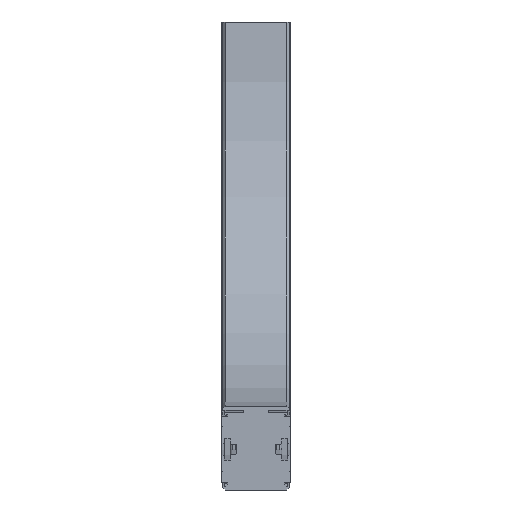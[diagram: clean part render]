
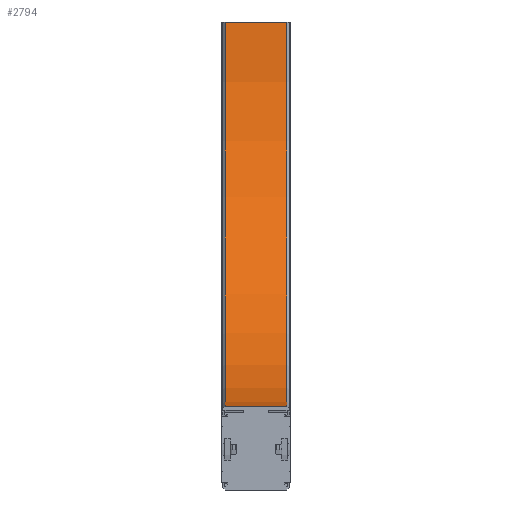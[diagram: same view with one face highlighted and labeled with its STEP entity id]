
A CAD part, front view. The second image highlights one B-rep face of the part: STEP entity #2794.
In plain terms, the highlighted cylindrical face has radius 360 mm (diameter 720 mm), a partial arc.
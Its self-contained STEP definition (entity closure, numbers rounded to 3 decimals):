
#88=CYLINDRICAL_SURFACE('',#3073,360.);
#298=CIRCLE('',#3072,360.);
#299=CIRCLE('',#3074,360.);
#463=FACE_OUTER_BOUND('',#617,.T.);
#617=EDGE_LOOP('',(#2255,#2256,#2257,#2258));
#805=LINE('',#9301,#1011);
#806=LINE('',#9303,#1012);
#1011=VECTOR('',#3758,10.);
#1012=VECTOR('',#3759,10.);
#1277=VERTEX_POINT('',#9294);
#1278=VERTEX_POINT('',#9296);
#1279=VERTEX_POINT('',#9300);
#1280=VERTEX_POINT('',#9302);
#1665=EDGE_CURVE('',#1277,#1278,#298,.T.);
#1666=EDGE_CURVE('',#1279,#1277,#805,.T.);
#1667=EDGE_CURVE('',#1280,#1278,#806,.T.);
#1668=EDGE_CURVE('',#1279,#1280,#299,.T.);
#2255=ORIENTED_EDGE('',*,*,#1666,.T.);
#2256=ORIENTED_EDGE('',*,*,#1665,.T.);
#2257=ORIENTED_EDGE('',*,*,#1667,.F.);
#2258=ORIENTED_EDGE('',*,*,#1668,.F.);
#2794=ADVANCED_FACE('',(#463),#88,.F.);
#3072=AXIS2_PLACEMENT_3D('',#9298,#3754,#3755);
#3073=AXIS2_PLACEMENT_3D('',#9299,#3756,#3757);
#3074=AXIS2_PLACEMENT_3D('',#9304,#3760,#3761);
#3754=DIRECTION('center_axis',(1.,0.,0.));
#3755=DIRECTION('ref_axis',(0.,0.,-1.));
#3756=DIRECTION('center_axis',(1.,0.,0.));
#3757=DIRECTION('ref_axis',(0.,0.,-1.));
#3758=DIRECTION('',(1.,0.,0.));
#3759=DIRECTION('',(1.,0.,0.));
#3760=DIRECTION('center_axis',(1.,0.,0.));
#3761=DIRECTION('ref_axis',(0.,0.,-1.));
#9294=CARTESIAN_POINT('',(29.,0.,40.));
#9296=CARTESIAN_POINT('',(29.,360.,400.));
#9298=CARTESIAN_POINT('Origin',(29.,0.,400.));
#9299=CARTESIAN_POINT('Origin',(-14.5,0.,400.));
#9300=CARTESIAN_POINT('',(-29.,0.,40.));
#9301=CARTESIAN_POINT('',(-29.,0.,40.));
#9302=CARTESIAN_POINT('',(-29.,360.,400.));
#9303=CARTESIAN_POINT('',(-29.,360.,400.));
#9304=CARTESIAN_POINT('Origin',(-29.,0.,400.));
